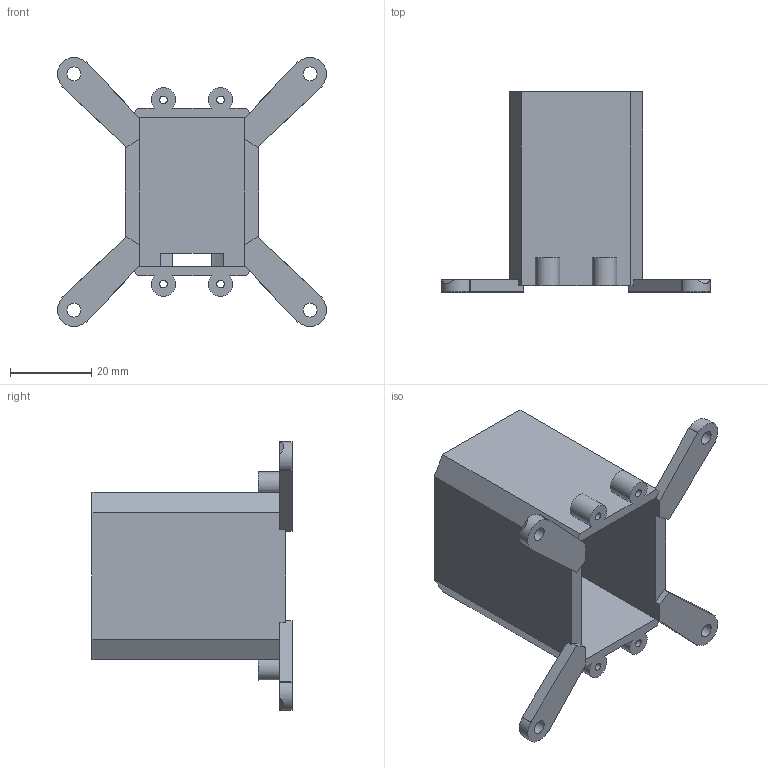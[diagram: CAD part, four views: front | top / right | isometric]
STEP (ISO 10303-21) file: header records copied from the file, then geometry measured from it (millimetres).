
FILE_DESCRIPTION(/* description */ ('Front-withdrawable case cradle; four front-accessible M3 bolts to shell, separate M2 front retaining plate. The servo case rotates with head; horn fixed to neck. 1.7 mm M2 pilot holes are prototype thread-forming fit.'),/* implementation_level */ '2;1');
FILE_NAME(/* name */ '17 Removable swivel servo cartridge.step',/* time_stamp */ '2026-10-02T21:02:17+01:00',/* author */ (''),/* organization */ (''),/* preprocessor_version */ 'ST-DEVELOPER v20.2',/* originating_system */ 'Autodesk Translation Framework v15.15.0.0',/* authorisation */ '');
FILE_SCHEMA (('AUTOMOTIVE_DESIGN { 1 0 10303 214 3 1 1 }'));
Length unit declared in the file: millimetre
Products named in the file (1): 2026-10-02-21-02-17-548
Bounding box: 65.99 x 49.1 x 65.99 mm (x, y, z)
Volume: 21019.9 mm3; surface area: 16729.2 mm2
Topology: 1 solids, 1 shells, 76 faces, 228 edges, 152 vertices
Faces by surface type: plane 55, cylinder 17, bspline 4
Full cylindrical faces by diameter (mm): 1.9 x4, 3.4 x4
Entity records: 2813 total; most frequent: CARTESIAN_POINT 665, ORIENTED_EDGE 456, DIRECTION 418, EDGE_CURVE 228, LINE 176, VECTOR 176, VERTEX_POINT 152, AXIS2_PLACEMENT_3D 121
